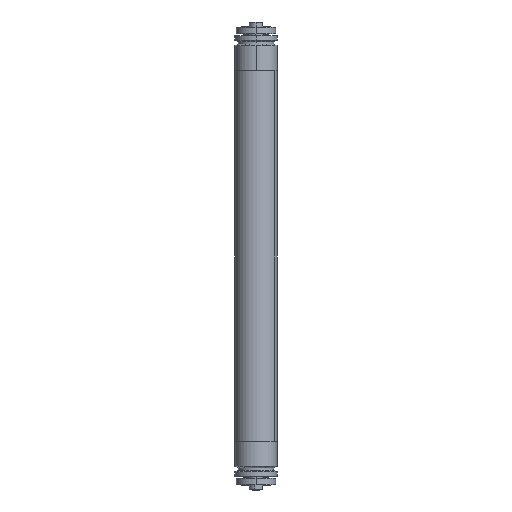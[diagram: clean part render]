
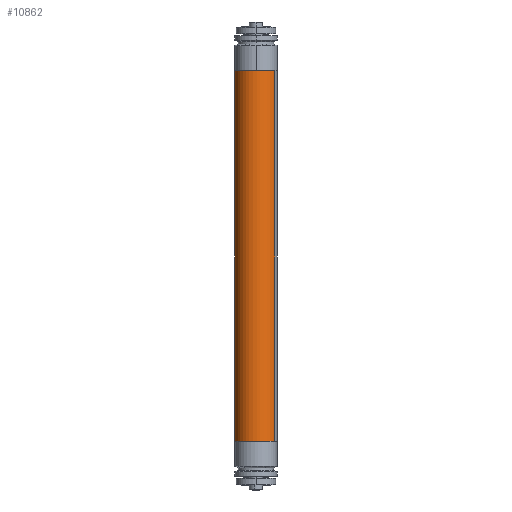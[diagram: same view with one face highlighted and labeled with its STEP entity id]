
A CAD part, left-side view. The second image highlights one B-rep face of the part: STEP entity #10862.
In plain terms, the highlighted cylindrical face has radius 48 mm (diameter 96 mm), a partial arc.
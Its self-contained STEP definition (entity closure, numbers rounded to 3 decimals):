
#608 = CARTESIAN_POINT ( 'NONE',  ( 421.5, 0., 0. ) ) ;
#672 = AXIS2_PLACEMENT_3D ( 'NONE', #10413, #2605, #10378 ) ;
#1248 = ORIENTED_EDGE ( 'NONE', *, *, #5664, .F. ) ;
#1487 = CARTESIAN_POINT ( 'NONE',  ( 421.5, 0., -48. ) ) ;
#1598 = EDGE_CURVE ( 'NONE', #7124, #7120, #4740, .T. ) ;
#2452 = DIRECTION ( 'NONE',  ( -1., 0., 0. ) ) ;
#2605 = DIRECTION ( 'NONE',  ( -1., 0., 0. ) ) ;
#2678 = EDGE_CURVE ( 'NONE', #4132, #12180, #3517, .T. ) ;
#3014 = CARTESIAN_POINT ( 'NONE',  ( -421.5, 0., 0. ) ) ;
#3517 = LINE ( 'NONE', #5957, #13690 ) ;
#3875 = DIRECTION ( 'NONE',  ( -1., 0., 0. ) ) ;
#4132 = VERTEX_POINT ( 'NONE', #12841 ) ;
#4179 = DIRECTION ( 'NONE',  ( 0., 0., -1. ) ) ;
#4286 = ORIENTED_EDGE ( 'NONE', *, *, #12601, .T. ) ;
#4740 = LINE ( 'NONE', #10608, #13528 ) ;
#4785 = CARTESIAN_POINT ( 'NONE',  ( -421.5, 0., -48. ) ) ;
#5664 = EDGE_CURVE ( 'NONE', #4132, #7124, #8902, .T. ) ;
#5786 = ORIENTED_EDGE ( 'NONE', *, *, #1598, .F. ) ;
#5836 = AXIS2_PLACEMENT_3D ( 'NONE', #608, #13121, #8410 ) ;
#5868 = EDGE_LOOP ( 'NONE', ( #5786, #1248, #14302, #4286 ) ) ;
#5955 = CYLINDRICAL_SURFACE ( 'NONE', #672, 48. ) ;
#5957 = CARTESIAN_POINT ( 'NONE',  ( 421.5, 0., 48. ) ) ;
#7120 = VERTEX_POINT ( 'NONE', #4785 ) ;
#7124 = VERTEX_POINT ( 'NONE', #1487 ) ;
#7939 = CARTESIAN_POINT ( 'NONE',  ( -421.5, 0., 48. ) ) ;
#8410 = DIRECTION ( 'NONE',  ( 0., 0., -1. ) ) ;
#8685 = DIRECTION ( 'NONE',  ( 1., 0., 0. ) ) ;
#8902 = CIRCLE ( 'NONE', #5836, 48. ) ;
#9763 = CIRCLE ( 'NONE', #11423, 48. ) ;
#10335 = FACE_OUTER_BOUND ( 'NONE', #5868, .T. ) ;
#10378 = DIRECTION ( 'NONE',  ( 0., 0., 1. ) ) ;
#10413 = CARTESIAN_POINT ( 'NONE',  ( 421.5, 0., 0. ) ) ;
#10608 = CARTESIAN_POINT ( 'NONE',  ( 421.5, 0., -48. ) ) ;
#10862 = ADVANCED_FACE ( 'NONE', ( #10335 ), #5955, .T. ) ;
#11423 = AXIS2_PLACEMENT_3D ( 'NONE', #3014, #8685, #4179 ) ;
#12180 = VERTEX_POINT ( 'NONE', #7939 ) ;
#12601 = EDGE_CURVE ( 'NONE', #12180, #7120, #9763, .T. ) ;
#12841 = CARTESIAN_POINT ( 'NONE',  ( 421.5, 0., 48. ) ) ;
#13121 = DIRECTION ( 'NONE',  ( 1., 0., 0. ) ) ;
#13528 = VECTOR ( 'NONE', #3875, 1000. ) ;
#13690 = VECTOR ( 'NONE', #2452, 1000. ) ;
#14302 = ORIENTED_EDGE ( 'NONE', *, *, #2678, .T. ) ;
